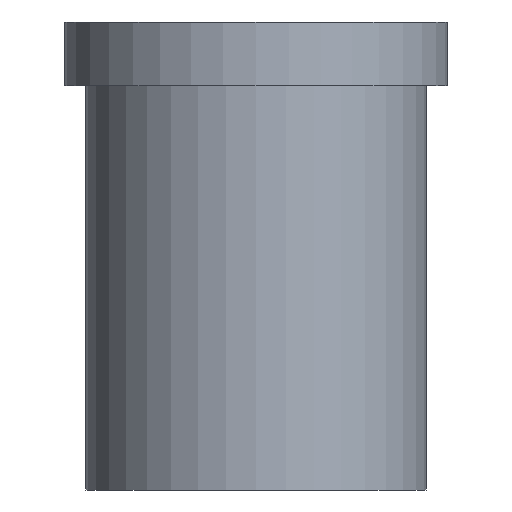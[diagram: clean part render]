
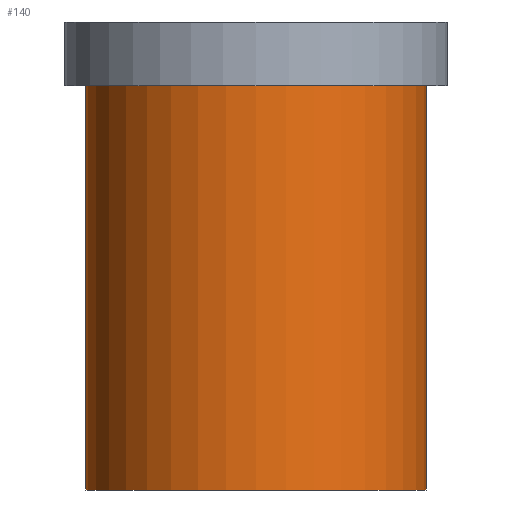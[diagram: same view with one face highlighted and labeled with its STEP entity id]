
A CAD part, front view. The second image highlights one B-rep face of the part: STEP entity #140.
In plain terms, the highlighted cylindrical face has radius 8 mm (diameter 16 mm), a partial arc.
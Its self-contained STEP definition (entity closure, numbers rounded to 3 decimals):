
#101=CYLINDRICAL_SURFACE('',#313,8.);
#107=LINE('',#441,#113);
#108=LINE('',#442,#114);
#113=VECTOR('',#383,1.);
#114=VECTOR('',#384,1.);
#127=FACE_OUTER_BOUND('',#165,.T.);
#140=ADVANCED_FACE('',(#127),#101,.T.);
#165=EDGE_LOOP('',(#211,#212,#213,#214));
#211=ORIENTED_EDGE('',*,*,#259,.T.);
#212=ORIENTED_EDGE('',*,*,#236,.F.);
#213=ORIENTED_EDGE('',*,*,#260,.F.);
#214=ORIENTED_EDGE('',*,*,#257,.T.);
#219=VERTEX_POINT('',#391);
#220=VERTEX_POINT('',#392);
#233=VERTEX_POINT('',#437);
#234=VERTEX_POINT('',#438);
#236=EDGE_CURVE('',#220,#219,#262,.T.);
#257=EDGE_CURVE('',#233,#234,#279,.T.);
#259=EDGE_CURVE('',#234,#219,#107,.T.);
#260=EDGE_CURVE('',#233,#220,#108,.T.);
#262=CIRCLE('',#283,8.);
#279=CIRCLE('',#310,8.);
#283=AXIS2_PLACEMENT_3D('',#393,#319,#320);
#310=AXIS2_PLACEMENT_3D('',#436,#377,#378);
#313=AXIS2_PLACEMENT_3D('',#443,#385,#386);
#319=DIRECTION('',(0.,0.,-1.));
#320=DIRECTION('',(0.,1.,0.));
#377=DIRECTION('',(0.,0.,-1.));
#378=DIRECTION('',(0.,1.,0.));
#383=DIRECTION('',(0.,0.,-1.));
#384=DIRECTION('',(0.,0.,-1.));
#385=DIRECTION('',(0.,0.,-1.));
#386=DIRECTION('',(0.,-1.,0.));
#391=CARTESIAN_POINT('',(-8.,0.,-19.));
#392=CARTESIAN_POINT('',(8.,0.,-19.));
#393=CARTESIAN_POINT('',(0.,0.,-19.));
#436=CARTESIAN_POINT('',(0.,0.,0.));
#437=CARTESIAN_POINT('',(8.,0.,0.));
#438=CARTESIAN_POINT('',(-8.,0.,0.));
#441=CARTESIAN_POINT('',(-8.,0.,-19.));
#442=CARTESIAN_POINT('',(8.,0.,-19.));
#443=CARTESIAN_POINT('',(0.,0.,0.));
